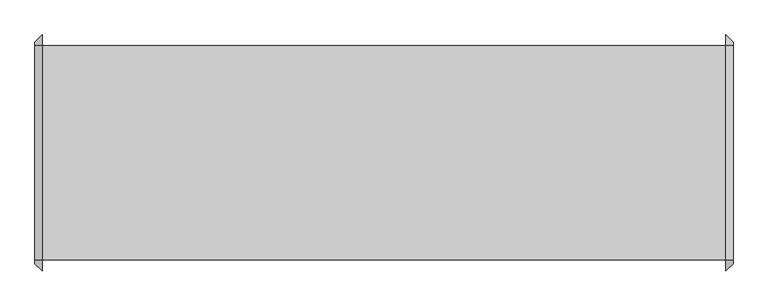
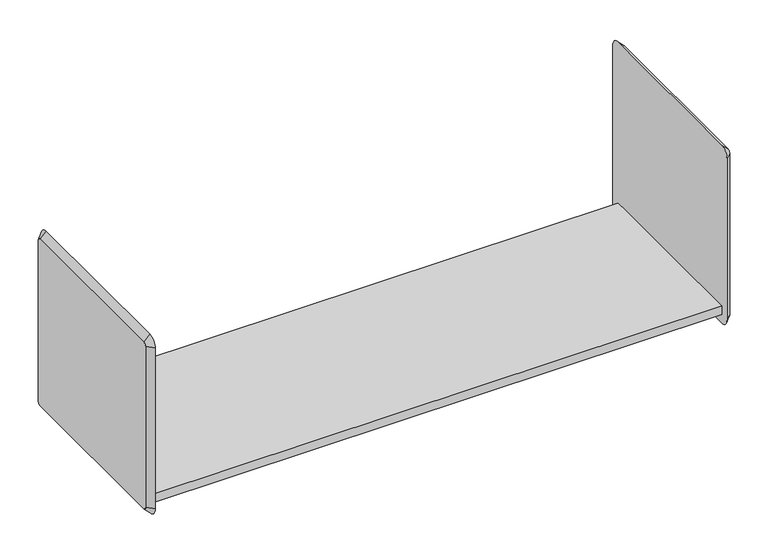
"""IFC4 building model written with IfcOpenShell, lengths in millimetres: furniture geometry, HermanMiller_ActionOffice_A3210_B-StyleShelf : 15-1/2H 16D 48W."""

from ifc_helpers import new_model, si_unit, frame, origin, place, context, project, spatial, polyline, circle_curve, outline, extrude, source, transform, mapped, element, save
from ifc_brep_helpers import plane_surface, revolved_surface, advanced_brep


def furniture_35620e82(model_context):
    return source(origin(), model_context, "Body", "SolidModel", [
        extrude(outline(polyline([(472.9579955, 200.025), (472.9579955, 196.85), (-720.8420045, 196.85), (-720.8420045, 200.025), (472.9579955, 200.025)])), frame((0.0, 0.0, 709.2018113), z_axis=(0.0, 0.0, 1.0), x_axis=(1.0, 0.0, 0.0)), (0.0, 0.0, 1.0), 15.9097687),
        extrude(outline(polyline([(-174.625, 728.28658), (200.025, 728.28658), (200.025, 725.11158), (-171.45, 725.11158), (-171.45, 709.2018113), (-174.625, 709.2018113), (-174.625, 728.28658)])), frame((-720.8420045, 0.0, 0.0), z_axis=(1.0, 0.0, 0.0), x_axis=(0.0, 1.0, 0.0)), (0.0, 0.0, 1.0), 1193.8),
        advanced_brep(
        [(485.6579955, 200.025, 1071.18658), (485.6579955, -174.625, 1071.18658), (485.6579955, -180.975, 1064.83658), (485.6579955, -180.975, 709.23658), (485.6579955, -174.625, 702.88658), (485.6579955, 200.025, 702.88658), (485.6579955, 206.375, 709.23658), (485.6579955, 206.375, 1064.83658), (472.9579955, 200.025, 1083.88658), (472.9579955, 219.075, 1064.83658), (472.9579955, 219.075, 709.23658), (472.9579955, 200.025, 690.18658), (472.9579955, -174.625, 690.18658), (472.9579955, -193.675, 709.23658), (472.9579955, -193.675, 1064.83658), (472.9579955, -174.625, 1083.88658)],
        [
            (0, 1),
            (1, 2, circle_curve(frame((485.6579955, -174.625, 1064.83658), z_axis=(1.0, 0.0, 0.0), x_axis=(0.0, 0.0, 1.0)), 6.35)),
            (2, 3),
            (3, 4, circle_curve(frame((485.6579955, -174.625, 709.23658), z_axis=(1.0, 0.0, 0.0), x_axis=(0.0, -1.0, 0.0)), 6.35)),
            (4, 5),
            (5, 6, circle_curve(frame((485.6579955, 200.025, 709.23658), z_axis=(1.0, 0.0, 0.0), x_axis=(0.0, 0.0, -1.0)), 6.35)),
            (6, 7),
            (7, 0, circle_curve(frame((485.6579955, 200.025, 1064.83658), z_axis=(1.0, 0.0, 0.0), x_axis=(0.0, 1.0, 0.0)), 6.35)),
            (8, 9, circle_curve(frame((472.9579955, 200.025, 1064.83658), z_axis=(-1.0, 0.0, 0.0), x_axis=(0.0, 1.0, 0.0)), 19.05)),
            (9, 10),
            (10, 11, circle_curve(frame((472.9579955, 200.025, 709.23658), z_axis=(-1.0, 0.0, 0.0), x_axis=(0.0, 0.0, -1.0)), 19.05)),
            (11, 12),
            (12, 13, circle_curve(frame((472.9579955, -174.625, 709.23658), z_axis=(-1.0, 0.0, 0.0), x_axis=(0.0, -1.0, 0.0)), 19.05)),
            (13, 14),
            (14, 15, circle_curve(frame((472.9579955, -174.625, 1064.83658), z_axis=(-1.0, 0.0, 0.0), x_axis=(0.0, 0.0, 1.0)), 19.05)),
            (15, 8),
            (15, 1),
            (0, 8),
            (14, 2),
            (13, 3),
            (12, 4),
            (11, 5),
            (10, 6),
            (9, 7),
        ],
        [
            plane_surface(frame((485.6579955, 12.7, 887.03658), z_axis=(1.0, 0.0, 0.0), x_axis=(0.0, -1.0, 0.0))),
            plane_surface(frame((472.9579955, 12.7, 887.03658), z_axis=(-1.0, 0.0, 0.0), x_axis=(0.0, -1.0, 0.0))),
            plane_surface(frame((472.9579955, 12.7, 1083.88658), z_axis=(0.7071067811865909, 0.0, 0.7071067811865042), x_axis=(0.0, -1.0, 0.0))),
            revolved_surface(polyline([(485.6579955, -174.625, 1071.1865799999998), (472.9579955, -174.625, 1083.88658)]), (492.0079955, -174.625, 1064.83658), (-1.0, 0.0, 0.0)),
            plane_surface(frame((472.9579955, -193.675, 887.03658), z_axis=(0.7071067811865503, -0.7071067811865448, 0.0), x_axis=(0.0, 0.0, -1.0))),
            revolved_surface(polyline([(485.6579955, -180.97499999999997, 709.23658), (472.9579955, -193.675, 709.23658)]), (492.0079955, -174.625, 709.23658), (-1.0, 0.0, 0.0)),
            plane_surface(frame((472.9579955, 12.7, 690.18658), z_axis=(0.7071067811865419, 0.0, -0.7071067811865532), x_axis=(0.0, 1.0, 0.0))),
            revolved_surface(polyline([(485.6579955, 200.025, 702.8865800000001), (472.9579955, 200.025, 690.18658)]), (492.0079955, 200.025, 709.23658), (-1.0, 0.0, 0.0)),
            plane_surface(frame((472.9579955, 219.075, 887.03658), z_axis=(0.7071067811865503, 0.7071067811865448, 0.0), x_axis=(0.0, 0.0, 1.0))),
            revolved_surface(polyline([(485.6579955, 206.37499999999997, 1064.83658), (472.9579955, 219.075, 1064.83658)]), (492.0079955, 200.025, 1064.83658), (-1.0, 0.0, 0.0)),
        ],
        [
            (0, [[1, 2, 3, 4, 5, 6, 7, 8]]),
            (1, [[9, 10, 11, 12, 13, 14, 15, 16]]),
            (2, [[-16, 17, -1, 18]]),
            (3, [[-15, 19, -2, -17]]),
            (4, [[-14, 20, -3, -19]]),
            (5, [[-13, 21, -4, -20]]),
            (6, [[-12, 22, -5, -21]]),
            (7, [[-11, 23, -6, -22]]),
            (8, [[-10, 24, -7, -23]]),
            (9, [[-9, -18, -8, -24]]),
        ],
    ),
        advanced_brep(
        [(-733.5420045, -174.625, 1071.18658), (-733.5420045, 200.025, 1071.18658), (-733.5420045, 206.375, 1064.83658), (-733.5420045, 206.375, 709.23658), (-733.5420045, 200.025, 702.88658), (-733.5420045, -174.625, 702.88658), (-733.5420045, -180.975, 709.23658), (-733.5420045, -180.975, 1064.83658), (-720.8420045, -174.625, 1083.88658), (-720.8420045, -193.675, 1064.83658), (-720.8420045, -193.675, 709.23658), (-720.8420045, -174.625, 690.18658), (-720.8420045, 200.025, 690.18658), (-720.8420045, 219.075, 709.23658), (-720.8420045, 219.075, 1064.83658), (-720.8420045, 200.025, 1083.88658)],
        [
            (0, 1),
            (1, 2, circle_curve(frame((-733.5420045, 200.025, 1064.83658), z_axis=(-1.0, -1.881161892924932e-12, -1.801225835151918e-12), x_axis=(-1.8012100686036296e-12, 0.0, 1.0)), 6.35)),
            (2, 3),
            (3, 4, circle_curve(frame((-733.5420045, 200.025, 709.23658), z_axis=(-1.0, 0.0, 0.0), x_axis=(0.0, 1.0, 0.0)), 6.35)),
            (4, 5),
            (5, 6, circle_curve(frame((-733.5420045, -174.625, 709.23658), z_axis=(-1.0, 0.0, 0.0), x_axis=(0.0, 0.0, -1.0)), 6.35)),
            (6, 7),
            (7, 0, circle_curve(frame((-733.5420045, -174.625, 1064.83658), z_axis=(-1.0, -1.875832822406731e-12, 1.971756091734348e-12), x_axis=(1.875789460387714e-12, -1.0, 0.0)), 6.35)),
            (8, 9, circle_curve(frame((-720.8420045, -174.625, 1064.83658), z_axis=(1.0, 1.875832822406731e-12, -1.971756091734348e-12), x_axis=(1.875789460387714e-12, -1.0, 0.0)), 19.05)),
            (9, 10),
            (10, 11, circle_curve(frame((-720.8420045, -174.625, 709.23658), z_axis=(1.0, 0.0, 0.0), x_axis=(0.0, 0.0, -1.0)), 19.05)),
            (11, 12),
            (12, 13, circle_curve(frame((-720.8420045, 200.025, 709.23658), z_axis=(1.0, 0.0, 0.0), x_axis=(0.0, 1.0, 0.0)), 19.05)),
            (13, 14),
            (14, 15, circle_curve(frame((-720.8420045, 200.025, 1064.83658), z_axis=(1.0, 1.881161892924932e-12, 1.801225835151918e-12), x_axis=(-1.8012100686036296e-12, 0.0, 1.0)), 19.05)),
            (15, 8),
            (15, 1),
            (0, 8),
            (14, 2),
            (13, 3),
            (12, 4),
            (11, 5),
            (10, 6),
            (9, 7),
        ],
        [
            plane_surface(frame((-733.5420045, 12.7, 887.03658), z_axis=(-1.0, 0.0, 0.0), x_axis=(0.0, -1.0, 0.0))),
            plane_surface(frame((-720.8420045, 12.7, 887.03658), z_axis=(1.0, 0.0, 0.0), x_axis=(0.0, -1.0, 0.0))),
            plane_surface(frame((-720.8420045, 12.7, 1083.88658), z_axis=(-0.7071067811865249, 0.0, 0.7071067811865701), x_axis=(0.0, 1.0, 0.0))),
            revolved_surface(polyline([(-733.5420045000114, 200.025, 1071.1865799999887), (-720.8420044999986, 200.025, 1083.8865800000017)]), (-739.8920045, 200.025, 1064.83658), (1.0, 1.881161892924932e-12, 1.801225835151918e-12)),
            plane_surface(frame((-720.8420045, 219.075, 887.03658), z_axis=(-0.7071067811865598, 0.7071067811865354, 0.0), x_axis=(0.0, 0.0, -1.0))),
            revolved_surface(polyline([(-733.5420045, 206.37500000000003, 709.23658), (-720.8420045, 219.075, 709.23658)]), (-739.8920045, 200.025, 709.23658), (1.0, 0.0, 0.0)),
            plane_surface(frame((-720.8420045, 12.7, 690.18658), z_axis=(-0.7071067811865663, 0.0, -0.7071067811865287), x_axis=(0.0, -1.0, 0.0))),
            revolved_surface(polyline([(-733.5420045, -174.625, 702.88658), (-720.8420045, -174.625, 690.18658)]), (-739.8920045, -174.625, 709.23658), (1.0, 0.0, 0.0)),
            plane_surface(frame((-720.8420045, -193.675, 887.03658), z_axis=(-0.7071067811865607, -0.7071067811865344, 0.0), x_axis=(0.0, 0.0, 1.0))),
            revolved_surface(polyline([(-733.5420045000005, -180.97499999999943, 1064.83658), (-720.8420044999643, -193.67500000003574, 1064.83658)]), (-739.8920045, -174.625, 1064.83658), (1.0, 1.875832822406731e-12, -1.971756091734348e-12)),
        ],
        [
            (0, [[1, 2, 3, 4, 5, 6, 7, 8]]),
            (1, [[9, 10, 11, 12, 13, 14, 15, 16]]),
            (2, [[-16, 17, -1, 18]]),
            (3, [[-15, 19, -2, -17]]),
            (4, [[-14, 20, -3, -19]]),
            (5, [[-13, 21, -4, -20]]),
            (6, [[-12, 22, -5, -21]]),
            (7, [[-11, 23, -6, -22]]),
            (8, [[-10, 24, -7, -23]]),
            (9, [[-9, -18, -8, -24]]),
        ],
    ),
    ])


if __name__ == "__main__":
    model = new_model("IFC4")
    model_context = context("Model", 3, world=origin())
    ifc_project = project(units=[si_unit("LENGTHUNIT", "METRE", prefix="MILLI")], contexts=[model_context])
    site = spatial("IfcSite", under=ifc_project)
    building = spatial("IfcBuilding", under=site)
    placement = place(None, origin())
    furniture_shape = furniture_35620e82(model_context)
    element("IfcFurniture", 1, ObjectType="HermanMiller_ActionOffice_A3210_B-StyleShelf : 15-1/2H 16D 48W", at=placement, inside=building, context=model_context, shape_type="MappedRepresentation", body=[
        mapped(furniture_shape, transform((0.0, 0.0, 0.0), x_axis=(1.0, 0.0, 0.0), y_axis=(0.0, 1.0, 0.0), z_axis=(0.0, 0.0, 1.0))),
    ])
    save(model, "model.ifc")
